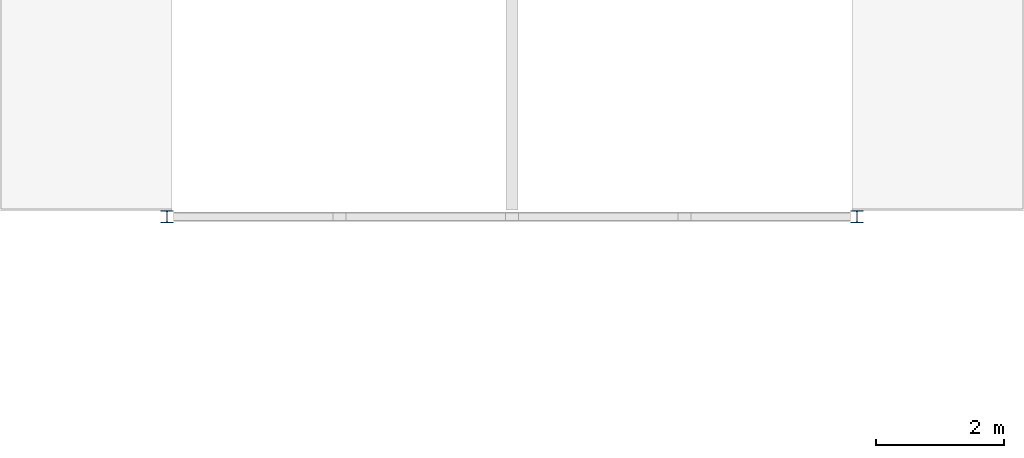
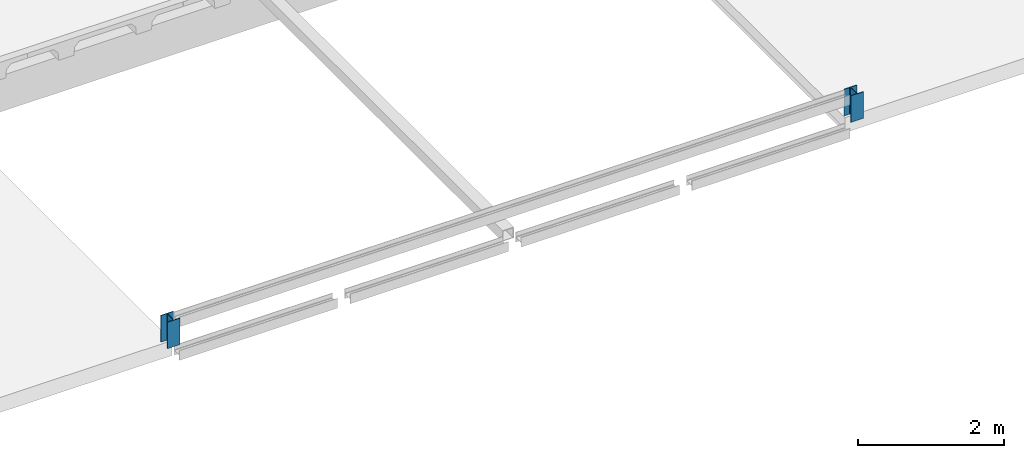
# One storey, part 8 of 36: 2 columns.
"""IFC2X3 building model written with IfcOpenShell, lengths in millimetres."""

from ifc_helpers import new_model, entity, si_unit, converted_unit, derived_unit, direction, frame, frame_2d, origin, place, context, subcontext, project, spatial, polyline, circle_curve, parameter, trimmed, segment, composite_curve, outline, extrude, source, transform, mapped, material, type_object, type_shapes, element, save


model = new_model("IFC2X3")

# Units and contexts
model_context = context("Model", 3, precision=0.01, world=origin(), true_north=direction((6.12303176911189e-17, 1.0)))
body_context = subcontext(model_context, "Body", "Model", "MODEL_VIEW")
ifc_project = project(units=[si_unit("LENGTHUNIT", "METRE", prefix="MILLI"), si_unit("AREAUNIT", "SQUARE_METRE"), si_unit("VOLUMEUNIT", "CUBIC_METRE"), converted_unit("PLANEANGLEUNIT", "DEGREE", entity("IfcRatioMeasure", 0.0174532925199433), si_unit("PLANEANGLEUNIT", "RADIAN"), dimensions=[0, 0, 0, 0, 0, 0, 0]), si_unit("MASSUNIT", "GRAM", prefix="KILO"), derived_unit("MASSDENSITYUNIT", [(si_unit("MASSUNIT", "GRAM", prefix="KILO"), 1), (si_unit("LENGTHUNIT", "METRE"), -3)]), si_unit("TIMEUNIT", "SECOND"), si_unit("FREQUENCYUNIT", "HERTZ"), si_unit("THERMODYNAMICTEMPERATUREUNIT", "DEGREE_CELSIUS"), derived_unit("THERMALTRANSMITTANCEUNIT", [(si_unit("MASSUNIT", "GRAM", prefix="KILO"), 1), (si_unit("THERMODYNAMICTEMPERATUREUNIT", "KELVIN"), -1), (si_unit("TIMEUNIT", "SECOND"), -3)]), derived_unit("VOLUMETRICFLOWRATEUNIT", [(si_unit("LENGTHUNIT", "METRE"), 3), (si_unit("TIMEUNIT", "SECOND"), -1)]), si_unit("ELECTRICCURRENTUNIT", "AMPERE"), si_unit("ELECTRICVOLTAGEUNIT", "VOLT"), si_unit("POWERUNIT", "WATT"), si_unit("FORCEUNIT", "NEWTON", prefix="KILO"), si_unit("ILLUMINANCEUNIT", "LUX"), si_unit("LUMINOUSFLUXUNIT", "LUMEN"), si_unit("LUMINOUSINTENSITYUNIT", "CANDELA"), derived_unit("USERDEFINED", [(si_unit("MASSUNIT", "GRAM", prefix="KILO"), -1), (si_unit("LENGTHUNIT", "METRE"), -2), (si_unit("TIMEUNIT", "SECOND"), 3), (si_unit("LUMINOUSFLUXUNIT", "LUMEN"), 1)]), derived_unit("LINEARVELOCITYUNIT", [(si_unit("LENGTHUNIT", "METRE"), 1), (si_unit("TIMEUNIT", "SECOND"), -1)]), si_unit("PRESSUREUNIT", "PASCAL"), derived_unit("USERDEFINED", [(si_unit("LENGTHUNIT", "METRE"), -2), (si_unit("MASSUNIT", "GRAM", prefix="KILO"), 1), (si_unit("TIMEUNIT", "SECOND"), -2)])], contexts=[model_context])

# Site, building, storey
site_placement = place(None, origin())
site = spatial("IfcSite", under=ifc_project, at=site_placement, Name="Default", CompositionType="ELEMENT")
building_placement = place(site_placement, origin())
building = spatial("IfcBuilding", under=site, at=building_placement, Name="niet gebruiken", CompositionType="ELEMENT")
storey_placement = place(building_placement, frame((0.0, 0.0, 12600.0)))
storey = spatial("IfcBuildingStorey", under=building, at=storey_placement, Name="04 vierde verdieping", CompositionType="ELEMENT", Elevation=12600.0)

# Columns
ifc_material = material(Name="NLRS_h2_staal")
column_type = type_object("IfcColumnType", Name="kolom HEA 200", PredefinedType="COLUMN", material=ifc_material)
shared_shape = source(origin(), body_context, "Body", "SweptSolid", [
    extrude(outline(composite_curve([segment(polyline([(85.0, -100.0), (95.0, -100.0)]), True, "CONTINUOUS"), segment(polyline([(95.0, -100.0), (95.0, 100.0)]), True, "CONTINUOUS"), segment(polyline([(95.0, 100.0), (85.0, 100.0)]), True, "CONTINUOUS"), segment(polyline([(85.0, 100.0), (85.0, 21.2499999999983)]), True, "CONTINUOUS"), segment(trimmed(circle_curve(frame_2d((67.0, 21.2499999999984), x_axis=(1.0, 0.0)), 18.0), [parameter(270.0)], [parameter(0.0)], True, "PARAMETER"), False, "CONTINUOUS"), segment(polyline([(67.0, 3.24999999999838), (-67.0, 3.24999999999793)]), True, "CONTINUOUS"), segment(trimmed(circle_curve(frame_2d((-67.0, 21.2499999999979), x_axis=(0.0, -1.0)), 18.0), [parameter(270.0)], [parameter(0.0)], True, "PARAMETER"), False, "CONTINUOUS"), segment(polyline([(-85.0, 21.2499999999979), (-85.0, 100.0)]), True, "CONTINUOUS"), segment(polyline([(-85.0, 100.0), (-95.0, 100.0)]), True, "CONTINUOUS"), segment(polyline([(-95.0, 100.0), (-95.0, -100.0)]), True, "CONTINUOUS"), segment(polyline([(-95.0, -100.0), (-85.0, -100.0)]), True, "CONTINUOUS"), segment(polyline([(-85.0, -100.0), (-85.0, -21.250000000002)]), True, "CONTINUOUS"), segment(trimmed(circle_curve(frame_2d((-67.0, -21.2500000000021), x_axis=(-1.0, 0.0)), 18.0), [parameter(270.0)], [parameter(0.0)], True, "PARAMETER"), False, "CONTINUOUS"), segment(polyline([(-67.0, -3.25000000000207), (67.0, -3.25000000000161)]), True, "CONTINUOUS"), segment(trimmed(circle_curve(frame_2d((67.0, -21.2500000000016), x_axis=(0.0, 1.0)), 18.0), [parameter(270.0)], [parameter(0.0)], True, "PARAMETER"), False, "CONTINUOUS"), segment(polyline([(85.0, -21.2500000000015), (85.0, -100.0)]), True, "CONTINUOUS")], self_intersect=False)), frame((0.0, 0.0, 12555.0), z_axis=(0.0, 0.0, 1.0), x_axis=(0.0, -1.0, 0.0)), (0.0, 0.0, 1.0), 445.000000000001),
])
type_shapes(column_type, [shared_shape])
for number, where, z_axis, x_axis, name in (
    (1, (75600.0, 300.0, -12600.0), (0.0, 0.0, 1.0), (-1.0, 0.0, 0.0), "NLRS_28.11_SCO_TLB_stalen kolom HEA_gen:kolom HEA 200"),
    (2, (86400.0, 300.0, -12600.0), (0.0, 0.0, 1.0), (-1.0, 0.0, 0.0), "NLRS_28.11_SCO_TLB_stalen kolom HEA_gen:kolom HEA 200"),
):
    element("IfcColumn", number, at=place(storey_placement, frame(where, z_axis=z_axis, x_axis=x_axis)), inside=storey, type_object=column_type, material=ifc_material, Name=name, ObjectType="kolom HEA 200", context=body_context, shape_type="MappedRepresentation", body=[
        mapped(shared_shape, transform((0.0, 0.0, 0.0), scale=1.0)),
    ])

save(model, "model.ifc")
